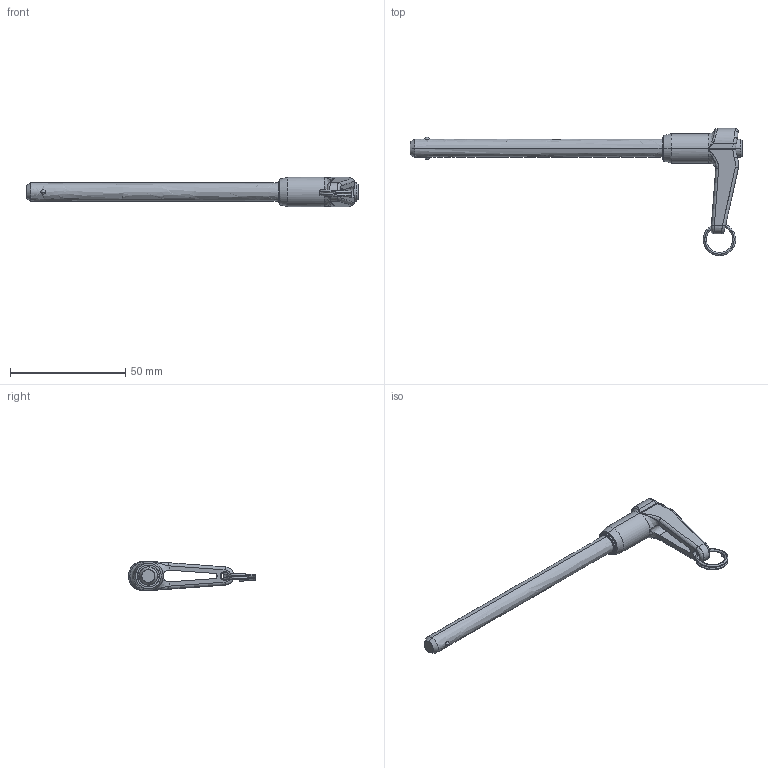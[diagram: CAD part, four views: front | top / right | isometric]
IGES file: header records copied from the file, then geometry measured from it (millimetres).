
Start section: SolidWorks IGES file using analytic representation for surfaces
Global section: file name: C:\Documents and Settings\IANO\My Documents\Wix and Auto CAD Work\CAD Models\Parametric Models\Wix Models\30000\33620_v2\33620_v2_20160606_IGES\33620.C040.igs; native system: SolidWorks 2009; preprocessor: SolidWorks 2009; author: IANO; date: 160615.125944; units: inch
Bounding box: 143.85 x 55.09 x 12.7 mm (x, y, z)
Surface area: 7472.2 mm2 (no closed solid volume)
Topology: 0 solids, 0 shells, 85 faces, 1226 edges, 1224 vertices
Faces by surface type: bspline 55, revolution 30
